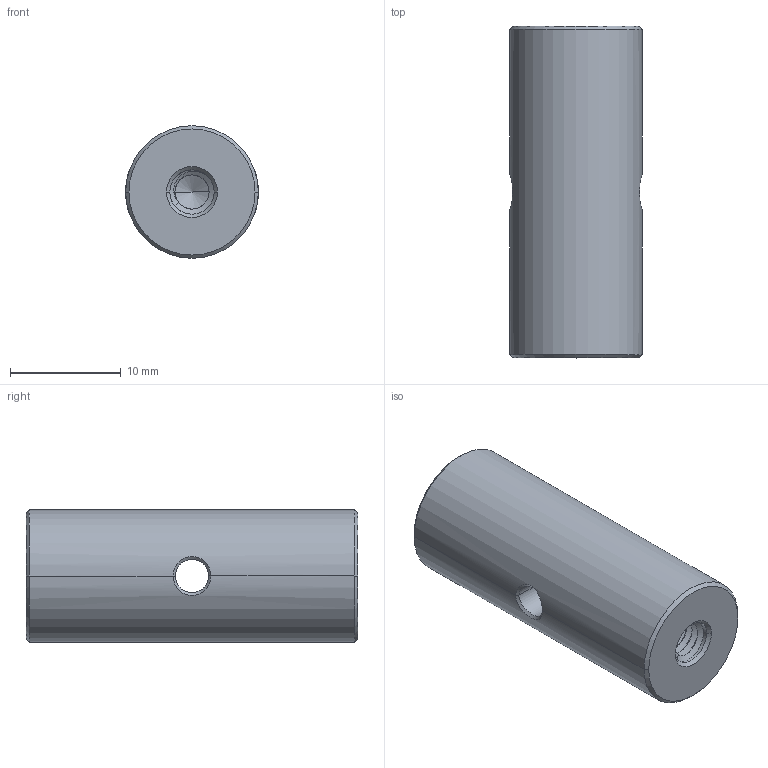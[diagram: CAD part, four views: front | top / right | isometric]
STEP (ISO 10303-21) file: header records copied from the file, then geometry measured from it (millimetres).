
FILE_DESCRIPTION((''),'2;1');
FILE_NAME('PCA3-S2','2020-12-11T',('Administrator'),(''),'CREO PARAMETRIC BY PTC INC, 2015290','CREO PARAMETRIC BY PTC INC, 2015290','');
FILE_SCHEMA(('CONFIG_CONTROL_DESIGN'));
Length unit declared in the file: millimetre
Products named in the file (1): PCA3-S2
Bounding box: 12 x 30 x 12 mm (x, y, z)
Volume: 3147.7 mm3; surface area: 1696.3 mm2
Topology: 1 solids, 1 shells, 80 faces, 216 edges, 134 vertices
Faces by surface type: cylinder 42, bspline 24, cone 12, plane 2
Entity records: 6312 total; most frequent: CARTESIAN_POINT 4580, ORIENTED_EDGE 424, DIRECTION 228, EDGE_CURVE 212, VERTEX_POINT 134, B_SPLINE_CURVE_WITH_KNOTS 116, EDGE_LOOP 82, FACE_OUTER_BOUND 80
